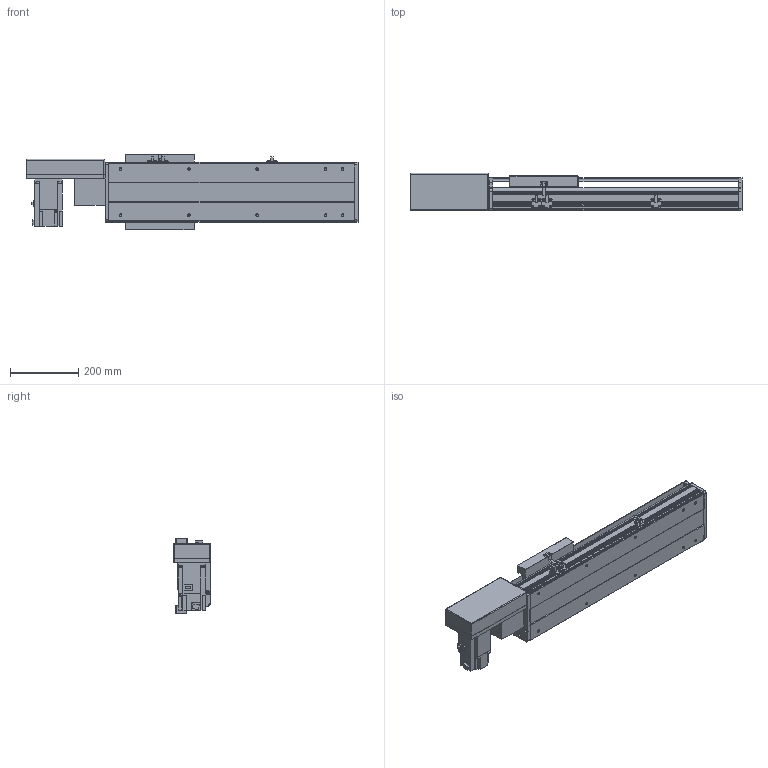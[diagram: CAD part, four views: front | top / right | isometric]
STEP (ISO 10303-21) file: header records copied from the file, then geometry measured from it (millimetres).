
FILE_DESCRIPTION(/* description */ ('STEP AP214'),/* implementation_level */ '2;1');
FILE_NAME(/* name */ 'PBS200-P40-S350-R-T75-C1-N(0)',/* time_stamp */ '2022-06-11T08:03:32+02:00',/* author */ ('License CC BY-ND 4.0'),/* organization */ ('CADENAS'),/* preprocessor_version */ 'ST-DEVELOPER v18.102',/* originating_system */ 'PARTsolutions',/* authorisation */ ' ');
FILE_SCHEMA (('AUTOMOTIVE_DESIGN {1 0 10303 214 3 1 1}'));
Length unit declared in the file: millimetre
Products named in the file (7): PBS200-P40-S350-R-T75-C1-N(0); PBS200_sensor; PBS200_plant; PBS200_sliser; T75-p1; PBS200T-R_motors; PBS200-S350()_body
Assembly tree (8 placements, depth 2):
  PBS200-P40-S350-R-T75-C1-N(0)
    PBS200_sensor  x3
    PBS200_plant
    PBS200_sliser
    T75-p1
    PBS200T-R_motors
    PBS200-S350()_body
Bounding box: 972 x 109 x 221 mm (x, y, z)
Volume: 7177997.2 mm3; surface area: 1179841.5 mm2
Topology: 8 solids, 8 shells, 902 faces, 2344 edges, 1530 vertices
Faces by surface type: plane 568, cylinder 292, cone 42
Full cylindrical faces by diameter (mm): 2.459 x6, 3.242 x4, 4.5 x6, 4.917 x4, 5 x6, 6 x7, 6.6 x8, 6.647 x14, 8 x6, 10 x4, 12 x8, 38 x2, 40 x1, 70 x1
Entity records: 24221 total; most frequent: DIRECTION 4255, CARTESIAN_POINT 4138, ORIENTED_EDGE 3946, EDGE_CURVE 1973, AXIS2_PLACEMENT_3D 1471, VERTEX_POINT 1354, LINE 1313, VECTOR 1313
